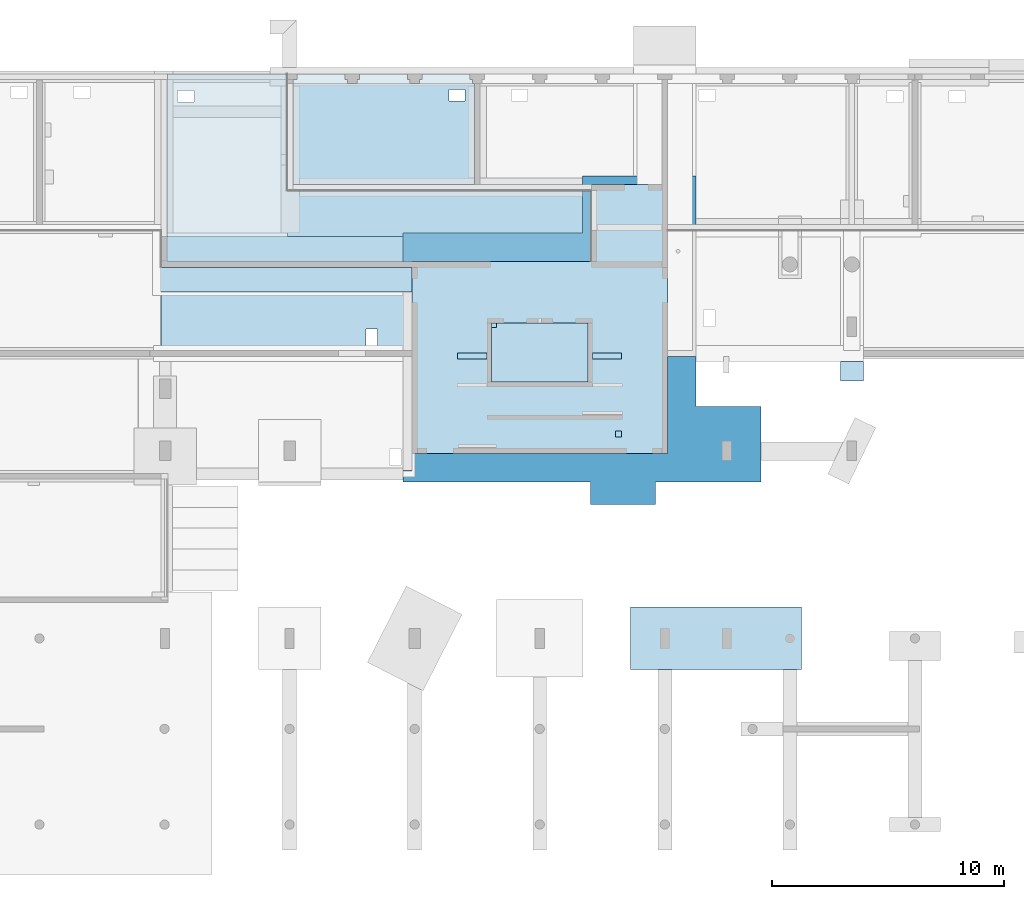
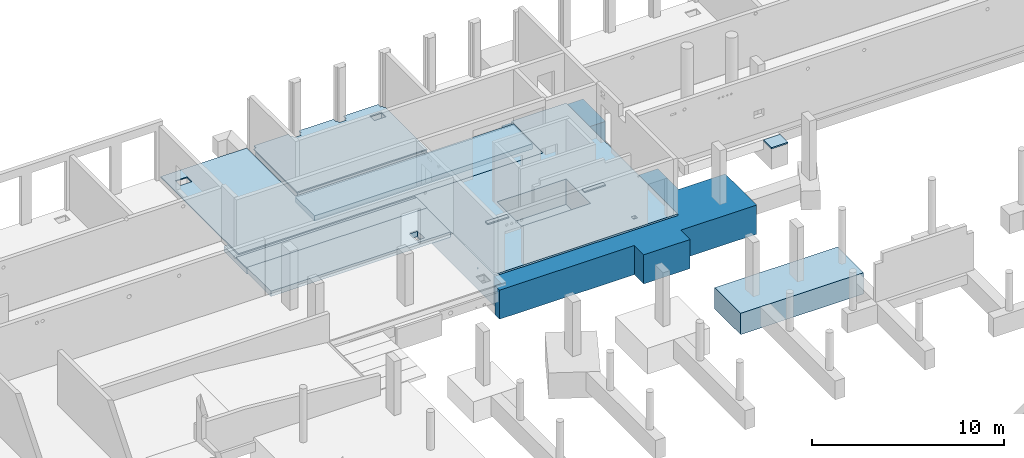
# One storey, part 25 of 60: 15 slabs, 44 openings.
"""IFC2X3 building model written with IfcOpenShell, lengths in millimetres."""

from ifc_helpers import new_model, entity, si_unit, converted_unit, derived_unit, direction, frame, frame_2d, origin, origin_2d_with_axis, place, context, subcontext, project, spatial, polyline, rectangle, circle, outline, extrude, material, layer, layer_set, layer_usage, element, save


model = new_model("IFC2X3")

# Units and contexts
model_context = context("Model", 3, precision=0.01, world=origin(), true_north=direction((6.12303176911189e-17, 1.0)))
body_context = subcontext(model_context, "Body", "Model", "MODEL_VIEW")
ifc_project = project(units=[si_unit("LENGTHUNIT", "METRE", prefix="MILLI"), si_unit("AREAUNIT", "SQUARE_METRE"), si_unit("VOLUMEUNIT", "CUBIC_METRE"), converted_unit("PLANEANGLEUNIT", "DEGREE", entity("IfcRatioMeasure", 0.0174532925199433), si_unit("PLANEANGLEUNIT", "RADIAN"), dimensions=[0, 0, 0, 0, 0, 0, 0]), si_unit("MASSUNIT", "GRAM", prefix="KILO"), derived_unit("MASSDENSITYUNIT", [(si_unit("MASSUNIT", "GRAM", prefix="KILO"), 1), (si_unit("LENGTHUNIT", "METRE"), -3)]), si_unit("TIMEUNIT", "SECOND"), si_unit("FREQUENCYUNIT", "HERTZ"), si_unit("THERMODYNAMICTEMPERATUREUNIT", "DEGREE_CELSIUS"), derived_unit("THERMALTRANSMITTANCEUNIT", [(si_unit("MASSUNIT", "GRAM", prefix="KILO"), 1), (si_unit("THERMODYNAMICTEMPERATUREUNIT", "KELVIN"), -1), (si_unit("TIMEUNIT", "SECOND"), -3)]), derived_unit("VOLUMETRICFLOWRATEUNIT", [(si_unit("LENGTHUNIT", "METRE"), 3), (si_unit("TIMEUNIT", "SECOND"), -1)]), si_unit("ELECTRICCURRENTUNIT", "AMPERE"), si_unit("ELECTRICVOLTAGEUNIT", "VOLT"), si_unit("POWERUNIT", "WATT"), si_unit("FORCEUNIT", "NEWTON", prefix="KILO"), si_unit("ILLUMINANCEUNIT", "LUX"), si_unit("LUMINOUSFLUXUNIT", "LUMEN"), si_unit("LUMINOUSINTENSITYUNIT", "CANDELA"), derived_unit("USERDEFINED", [(si_unit("MASSUNIT", "GRAM", prefix="KILO"), -1), (si_unit("LENGTHUNIT", "METRE"), -2), (si_unit("TIMEUNIT", "SECOND"), 3), (si_unit("LUMINOUSFLUXUNIT", "LUMEN"), 1)]), derived_unit("LINEARVELOCITYUNIT", [(si_unit("LENGTHUNIT", "METRE"), 1), (si_unit("TIMEUNIT", "SECOND"), -1)]), si_unit("PRESSUREUNIT", "PASCAL"), derived_unit("USERDEFINED", [(si_unit("LENGTHUNIT", "METRE"), -2), (si_unit("MASSUNIT", "GRAM", prefix="KILO"), 1), (si_unit("TIMEUNIT", "SECOND"), -2)])], contexts=[model_context])

# Site, building, storey
site_placement = place(None, origin())
site = spatial("IfcSite", under=ifc_project, at=site_placement, Name="Default", CompositionType="ELEMENT")
building_placement = place(site_placement, origin())
building = spatial("IfcBuilding", under=site, at=building_placement, Name="niet gebruiken", CompositionType="ELEMENT")
storey_placement = place(building_placement, origin())
storey = spatial("IfcBuildingStorey", under=building, at=storey_placement, Name="00 begane grond", CompositionType="ELEMENT", Elevation=0.0)

# Slab
ifc_material_1 = material(Name="NLRS_f2_beton ihwg")
slab_1_placement = place(storey_placement, origin())
element("IfcSlab", 1, at=slab_1_placement, inside=storey, material=ifc_material_1, Name="NLRS_16.13_SFO_LB_fundatiepoer_gen:2700x7380x1350", ObjectType="NLRS_16.13_SFO_LB_fundatiepoer_gen:2700x7380x1350", PredefinedType="BASESLAB", context=body_context, shape_type="SweptSolid", body=[
    extrude(rectangle(XDim=7380.0, YDim=2700.0, at=frame_2d((-4.32009983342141e-12, 0.0), x_axis=(1.0, 0.0))), frame((50810.0, 28881.0, -1550.0)), (0.0, 0.0, 1.0), 1350.0),
])

# Slab, opening
ifc_layer_1 = layer(ifc_material_1, 350.0)
ifc_layer_set_1 = layer_set([ifc_layer_1], Name="Floor:NLRS_23.21_FL_beton ihwg d=350_gen")
ifc_layer_usage_1 = layer_usage(ifc_layer_set_1, "AXIS3", "POSITIVE", 0.0)
slab_2_placement = place(storey_placement, frame((41124.9998491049, 39946.0, -2050.0)))
slab_2 = element("IfcSlab", 2, at=slab_2_placement, inside=storey, material=ifc_layer_usage_1, Name="Floor:NLRS_23.21_FL_beton ihwg d=350_gen", ObjectType="Floor:NLRS_23.21_FL_beton ihwg d=350_gen", PredefinedType="FLOOR", context=body_context, shape_type="SweptSolid", body=[
    extrude(rectangle(XDim=2549.99999999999, YDim=4149.99999999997, at=frame_2d((0.0, 0.0), x_axis=(0.0, -1.0))), frame((2075.0, 1275.0, 350.0), z_axis=(0.0, 0.0, -1.0), x_axis=(-1.0, 0.0, 0.0)), (0.0, 0.0, 1.0), 350.0),
])
opening_1_placement = place(slab_2_placement, origin())
element("IfcOpeningElement", 3, at=opening_1_placement, cuts=slab_2, ObjectType="Opening", context=body_context, shape_type="SweptSolid", body=[
    extrude(rectangle(XDim=199.999999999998, YDim=200.000000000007, at=origin_2d_with_axis()), frame((100.0, 2450.0, 325.0), z_axis=(0.0, 0.0, 1.0), x_axis=(-1.0, 0.0, 0.0)), (0.0, 0.0, 1.0), 25.0),
])

# Slab, openings
ifc_layer_2 = layer(ifc_material_1, 70.0)
ifc_layer_set_2 = layer_set([ifc_layer_2], Name="Floor:NLRS_23.21_FL_druklaag d=70_gen")
ifc_layer_usage_2 = layer_usage(ifc_layer_set_2, "AXIS3", "POSITIVE", 0.0)
slab_3_placement = place(storey_placement, frame((8180.0, 45156.0, -160.0)))
slab_3 = element("IfcSlab", 4, at=slab_3_placement, inside=storey, material=ifc_layer_usage_2, Name="Floor:NLRS_23.21_FL_druklaag d=70_gen:2", ObjectType="Floor:NLRS_23.21_FL_druklaag d=70_gen", PredefinedType="FLOOR", context=body_context, shape_type="SweptSolid", body=[
    extrude(outline(polyline([(36327.4999999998, -4050.0), (36327.4999999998, 3800.0), (36327.4999999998, 4050.0), (31147.5000000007, 4050.0), (31147.5000000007, -1000.0), (18022.500000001, -1000.0), (18022.500000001, -4050.0), (36327.4999999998, -4050.0)])), frame((55247.4999999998, 4050.0, 70.0), z_axis=(0.0, 0.0, -1.0), x_axis=(-1.0, 0.0, 0.0)), (0.0, 0.0, 1.0), 70.0),
])
placement_1 = place(storey_placement, frame((8180.0, 45156.0, -160.0)))
placement_2 = place(placement_1, origin())
element("IfcOpeningElement", 5, at=placement_2, cuts=slab_3, ObjectType="Opening", context=body_context, shape_type="SweptSolid", body=[
    extrude(rectangle(XDim=700.000000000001, YDim=499.999999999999, at=origin_2d_with_axis()), frame((1750.0, 7302.50000000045, -380.0), z_axis=(0.0, 0.0, 1.0), x_axis=(-1.0, 0.0, 0.0)), (0.0, 0.0, 1.0), 450.0),
])
placement_3 = place(placement_1, origin())
element("IfcOpeningElement", 6, at=placement_3, cuts=slab_3, ObjectType="Opening", context=body_context, shape_type="SweptSolid", body=[
    extrude(rectangle(XDim=700.000000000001, YDim=499.999999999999, at=origin_2d_with_axis()), frame((4450.0, 7302.50000000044, -380.0), z_axis=(0.0, 0.0, 1.0), x_axis=(-1.0, 0.0, 0.0)), (0.0, 0.0, 1.0), 450.0),
])
placement_4 = place(placement_1, origin())
element("IfcOpeningElement", 7, at=placement_4, cuts=slab_3, ObjectType="Opening", context=body_context, shape_type="SweptSolid", body=[
    extrude(rectangle(XDim=700.000000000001, YDim=499.999999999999, at=origin_2d_with_axis()), frame((12550.0, 7302.50000000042, -380.0), z_axis=(0.0, 0.0, 1.0), x_axis=(-1.0, 0.0, 0.0)), (0.0, 0.0, 1.0), 450.0),
])
placement_5 = place(placement_1, origin())
element("IfcOpeningElement", 8, at=placement_5, cuts=slab_3, ObjectType="Opening", context=body_context, shape_type="SweptSolid", body=[
    extrude(rectangle(XDim=700.000000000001, YDim=499.999999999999, at=origin_2d_with_axis()), frame((15250.0, 7302.50000000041, -380.0), z_axis=(0.0, 0.0, 1.0), x_axis=(-1.0, 0.0, 0.0)), (0.0, 0.0, 1.0), 450.0),
])
placement_6 = place(placement_1, origin())
element("IfcOpeningElement", 9, at=placement_6, cuts=slab_3, ObjectType="Opening", context=body_context, shape_type="SweptSolid", body=[
    extrude(rectangle(XDim=700.000000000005, YDim=499.999999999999, at=origin_2d_with_axis()), frame((42250.0, 7175.0, -380.0), z_axis=(0.0, 0.0, 1.0), x_axis=(-1.0, 0.0, 0.0)), (0.0, 0.0, 1.0), 450.0),
])
placement_7 = place(placement_1, origin())
element("IfcOpeningElement", 10, at=placement_7, cuts=slab_3, ObjectType="Opening", context=body_context, shape_type="SweptSolid", body=[
    extrude(rectangle(XDim=700.000000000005, YDim=499.999999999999, at=origin_2d_with_axis()), frame((50350.0, 7102.50000000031, -380.0), z_axis=(0.0, 0.0, 1.0), x_axis=(-1.0, 0.0, 0.0)), (0.0, 0.0, 1.0), 450.0),
])
placement_8 = place(placement_1, origin())
element("IfcOpeningElement", 11, at=placement_8, cuts=slab_3, ObjectType="Opening", context=body_context, shape_type="SweptSolid", body=[
    extrude(rectangle(XDim=699.999999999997, YDim=499.999999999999, at=origin_2d_with_axis()), frame((53050.0, 7102.50000000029, -380.0), z_axis=(0.0, 0.0, 1.0), x_axis=(-1.0, 0.0, 0.0)), (0.0, 0.0, 1.0), 450.0),
])
placement_9 = place(placement_1, origin())
element("IfcOpeningElement", 12, at=placement_9, cuts=slab_3, ObjectType="Opening", context=body_context, shape_type="SweptSolid", body=[
    extrude(rectangle(XDim=699.999999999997, YDim=499.999999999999, at=origin_2d_with_axis()), frame((60190.0, 7302.50000000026, -380.0), z_axis=(0.0, 0.0, 1.0), x_axis=(-1.0, 0.0, 0.0)), (0.0, 0.0, 1.0), 450.0),
])
placement_10 = place(placement_1, origin())
element("IfcOpeningElement", 13, at=placement_10, cuts=slab_3, ObjectType="Opening", context=body_context, shape_type="SweptSolid", body=[
    extrude(rectangle(XDim=700.000000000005, YDim=499.999999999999, at=origin_2d_with_axis()), frame((63850.0, 7302.50000000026, -380.0), z_axis=(0.0, 0.0, 1.0), x_axis=(-1.0, 0.0, 0.0)), (0.0, 0.0, 1.0), 450.0),
])
placement_11 = place(placement_1, origin())
element("IfcOpeningElement", 14, at=placement_11, cuts=slab_3, ObjectType="Opening", context=body_context, shape_type="SweptSolid", body=[
    extrude(rectangle(XDim=699.999999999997, YDim=499.999999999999, at=origin_2d_with_axis()), frame((90850.0, 7155.0, -380.0), z_axis=(0.0, 0.0, 1.0), x_axis=(-1.0, 0.0, 0.0)), (0.0, 0.0, 1.0), 450.0),
])
placement_12 = place(placement_1, origin())
element("IfcOpeningElement", 15, at=placement_12, cuts=slab_3, ObjectType="Opening", context=body_context, shape_type="SweptSolid", body=[
    extrude(rectangle(XDim=699.999999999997, YDim=499.999999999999, at=origin_2d_with_axis()), frame((97990.0, 7155.0, -380.0), z_axis=(0.0, 0.0, 1.0), x_axis=(-1.0, 0.0, 0.0)), (0.0, 0.0, 1.0), 450.0),
])
placement_13 = place(placement_1, origin())
element("IfcOpeningElement", 16, at=placement_13, cuts=slab_3, ObjectType="Opening", context=body_context, shape_type="SweptSolid", body=[
    extrude(rectangle(XDim=699.999999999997, YDim=499.999999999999, at=origin_2d_with_axis()), frame((101650.0, 7302.50000000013, -380.0), z_axis=(0.0, 0.0, 1.0), x_axis=(-1.0, 0.0, 0.0)), (0.0, 0.0, 1.0), 450.0),
])
placement_14 = place(placement_1, origin())
element("IfcOpeningElement", 17, at=placement_14, cuts=slab_3, ObjectType="Opening", context=body_context, shape_type="SweptSolid", body=[
    extrude(rectangle(XDim=699.999999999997, YDim=499.999999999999, at=origin_2d_with_axis()), frame((109750.0, 7302.50000000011, -380.0), z_axis=(0.0, 0.0, 1.0), x_axis=(-1.0, 0.0, 0.0)), (0.0, 0.0, 1.0), 450.0),
])
placement_15 = place(placement_1, origin())
element("IfcOpeningElement", 18, at=placement_15, cuts=slab_3, ObjectType="Opening", context=body_context, shape_type="SweptSolid", body=[
    extrude(rectangle(XDim=699.999999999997, YDim=499.999999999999, at=origin_2d_with_axis()), frame((112450.0, 7302.5000000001, -380.0), z_axis=(0.0, 0.0, 1.0), x_axis=(-1.0, 0.0, 0.0)), (0.0, 0.0, 1.0), 450.0),
])
placement_16 = place(placement_1, origin())
element("IfcOpeningElement", 19, at=placement_16, cuts=slab_3, ObjectType="Opening", context=body_context, shape_type="SweptSolid", body=[
    extrude(rectangle(XDim=700.000000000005, YDim=499.999999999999, at=origin_2d_with_axis()), frame((31450.0, 7175.0, -380.0), z_axis=(0.0, 0.0, 1.0), x_axis=(-1.0, 0.0, 0.0)), (0.0, 0.0, 1.0), 450.0),
])
placement_17 = place(placement_1, origin())
element("IfcOpeningElement", 20, at=placement_17, cuts=slab_3, ObjectType="Opening", context=body_context, shape_type="SweptSolid", body=[
    extrude(rectangle(XDim=700.000000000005, YDim=499.999999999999, at=origin_2d_with_axis()), frame((34150.0, 7175.0, -380.0), z_axis=(0.0, 0.0, 1.0), x_axis=(-1.0, 0.0, 0.0)), (0.0, 0.0, 1.0), 450.0),
])
placement_18 = place(placement_1, origin())
element("IfcOpeningElement", 21, at=placement_18, cuts=slab_3, ObjectType="Opening", context=body_context, shape_type="SweptSolid", body=[
    extrude(rectangle(XDim=699.999999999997, YDim=499.999999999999, at=origin_2d_with_axis()), frame((82750.0, 7175.0, -380.0), z_axis=(0.0, 0.0, 1.0), x_axis=(-1.0, 0.0, 0.0)), (0.0, 0.0, 1.0), 450.0),
])
placement_19 = place(placement_1, origin())
element("IfcOpeningElement", 22, at=placement_19, cuts=slab_3, ObjectType="Opening", context=body_context, shape_type="SweptSolid", body=[
    extrude(rectangle(XDim=699.999999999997, YDim=499.999999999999, at=origin_2d_with_axis()), frame((80050.0, 7175.0, -380.0), z_axis=(0.0, 0.0, 1.0), x_axis=(-1.0, 0.0, 0.0)), (0.0, 0.0, 1.0), 450.0),
])
placement_20 = place(placement_1, origin())
element("IfcOpeningElement", 23, at=placement_20, cuts=slab_3, ObjectType="Opening", context=body_context, shape_type="SweptSolid", body=[
    extrude(rectangle(XDim=700.000000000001, YDim=499.999999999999, at=origin_2d_with_axis()), frame((19739.8230847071, 7129.78918001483, -380.0), z_axis=(0.0, 0.0, 1.0), x_axis=(-1.0, 0.0, 0.0)), (0.0, 0.0, 1.0), 450.0),
])

slab_4_placement = place(storey_placement, frame((8180.0, 45156.0, -160.0)))
slab_4 = element("IfcSlab", 24, at=slab_4_placement, inside=storey, material=ifc_layer_usage_2, Name="Floor:NLRS_23.21_FL_druklaag d=70_gen:3", ObjectType="Floor:NLRS_23.21_FL_druklaag d=70_gen", PredefinedType="FLOOR", context=body_context, shape_type="SweptSolid", body=[
    extrude(outline(polyline([(28637.500000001, 4050.0), (28637.500000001, 3800.0), (28532.500000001, 3800.0), (28532.500000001, 3638.0), (28122.500000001, 3638.0), (28122.500000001, 3800.0), (28017.500000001, 3800.0), (28017.500000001, 4050.0), (25937.500000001, 4050.0), (25937.500000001, 3800.0), (25832.500000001, 3800.0), (25832.500000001, 3640.0), (25422.500000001, 3640.0), (25422.500000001, 3800.0), (25317.500000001, 3800.0), (25317.500000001, 4050.0), (23237.500000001, 4050.0), (23237.500000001, 3800.0), (23132.500000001, 3800.0), (23132.500000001, 3640.0), (23052.4999999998, 3640.0), (23052.4999999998, -730.0), (30877.4999999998, -730.0), (30877.4999999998, 3800.0), (30717.4999999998, 3800.0), (30717.4999999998, 4050.0), (28637.500000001, 4050.0)])), frame((55247.4999999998, 4050.0, 70.0), z_axis=(0.0, 0.0, -1.0), x_axis=(-1.0, 0.0, 0.0)), (0.0, 0.0, 1.0), 70.0),
])
element("IfcOpeningElement", 25, at=placement_2, cuts=slab_4, ObjectType="Opening", context=body_context, shape_type="SweptSolid", body=[
    extrude(rectangle(XDim=700.000000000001, YDim=499.999999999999, at=origin_2d_with_axis()), frame((1750.0, 7302.50000000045, -380.0), z_axis=(0.0, 0.0, 1.0), x_axis=(-1.0, 0.0, 0.0)), (0.0, 0.0, 1.0), 450.0),
])
element("IfcOpeningElement", 26, at=placement_3, cuts=slab_4, ObjectType="Opening", context=body_context, shape_type="SweptSolid", body=[
    extrude(rectangle(XDim=700.000000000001, YDim=499.999999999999, at=origin_2d_with_axis()), frame((4450.0, 7302.50000000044, -380.0), z_axis=(0.0, 0.0, 1.0), x_axis=(-1.0, 0.0, 0.0)), (0.0, 0.0, 1.0), 450.0),
])
element("IfcOpeningElement", 27, at=placement_4, cuts=slab_4, ObjectType="Opening", context=body_context, shape_type="SweptSolid", body=[
    extrude(rectangle(XDim=700.000000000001, YDim=499.999999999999, at=origin_2d_with_axis()), frame((12550.0, 7302.50000000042, -380.0), z_axis=(0.0, 0.0, 1.0), x_axis=(-1.0, 0.0, 0.0)), (0.0, 0.0, 1.0), 450.0),
])
element("IfcOpeningElement", 28, at=placement_5, cuts=slab_4, ObjectType="Opening", context=body_context, shape_type="SweptSolid", body=[
    extrude(rectangle(XDim=700.000000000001, YDim=499.999999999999, at=origin_2d_with_axis()), frame((15250.0, 7302.50000000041, -380.0), z_axis=(0.0, 0.0, 1.0), x_axis=(-1.0, 0.0, 0.0)), (0.0, 0.0, 1.0), 450.0),
])
element("IfcOpeningElement", 29, at=placement_6, cuts=slab_4, ObjectType="Opening", context=body_context, shape_type="SweptSolid", body=[
    extrude(rectangle(XDim=700.000000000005, YDim=499.999999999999, at=origin_2d_with_axis()), frame((42250.0, 7175.0, -380.0), z_axis=(0.0, 0.0, 1.0), x_axis=(-1.0, 0.0, 0.0)), (0.0, 0.0, 1.0), 450.0),
])
element("IfcOpeningElement", 30, at=placement_7, cuts=slab_4, ObjectType="Opening", context=body_context, shape_type="SweptSolid", body=[
    extrude(rectangle(XDim=700.000000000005, YDim=499.999999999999, at=origin_2d_with_axis()), frame((50350.0, 7102.50000000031, -380.0), z_axis=(0.0, 0.0, 1.0), x_axis=(-1.0, 0.0, 0.0)), (0.0, 0.0, 1.0), 450.0),
])
element("IfcOpeningElement", 31, at=placement_8, cuts=slab_4, ObjectType="Opening", context=body_context, shape_type="SweptSolid", body=[
    extrude(rectangle(XDim=699.999999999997, YDim=499.999999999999, at=origin_2d_with_axis()), frame((53050.0, 7102.50000000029, -380.0), z_axis=(0.0, 0.0, 1.0), x_axis=(-1.0, 0.0, 0.0)), (0.0, 0.0, 1.0), 450.0),
])
element("IfcOpeningElement", 32, at=placement_9, cuts=slab_4, ObjectType="Opening", context=body_context, shape_type="SweptSolid", body=[
    extrude(rectangle(XDim=699.999999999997, YDim=499.999999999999, at=origin_2d_with_axis()), frame((60190.0, 7302.50000000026, -380.0), z_axis=(0.0, 0.0, 1.0), x_axis=(-1.0, 0.0, 0.0)), (0.0, 0.0, 1.0), 450.0),
])
element("IfcOpeningElement", 33, at=placement_10, cuts=slab_4, ObjectType="Opening", context=body_context, shape_type="SweptSolid", body=[
    extrude(rectangle(XDim=700.000000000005, YDim=499.999999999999, at=origin_2d_with_axis()), frame((63850.0, 7302.50000000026, -380.0), z_axis=(0.0, 0.0, 1.0), x_axis=(-1.0, 0.0, 0.0)), (0.0, 0.0, 1.0), 450.0),
])
element("IfcOpeningElement", 34, at=placement_11, cuts=slab_4, ObjectType="Opening", context=body_context, shape_type="SweptSolid", body=[
    extrude(rectangle(XDim=699.999999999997, YDim=499.999999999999, at=origin_2d_with_axis()), frame((90850.0, 7155.0, -380.0), z_axis=(0.0, 0.0, 1.0), x_axis=(-1.0, 0.0, 0.0)), (0.0, 0.0, 1.0), 450.0),
])
element("IfcOpeningElement", 35, at=placement_12, cuts=slab_4, ObjectType="Opening", context=body_context, shape_type="SweptSolid", body=[
    extrude(rectangle(XDim=699.999999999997, YDim=499.999999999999, at=origin_2d_with_axis()), frame((97990.0, 7155.0, -380.0), z_axis=(0.0, 0.0, 1.0), x_axis=(-1.0, 0.0, 0.0)), (0.0, 0.0, 1.0), 450.0),
])
element("IfcOpeningElement", 36, at=placement_13, cuts=slab_4, ObjectType="Opening", context=body_context, shape_type="SweptSolid", body=[
    extrude(rectangle(XDim=699.999999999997, YDim=499.999999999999, at=origin_2d_with_axis()), frame((101650.0, 7302.50000000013, -380.0), z_axis=(0.0, 0.0, 1.0), x_axis=(-1.0, 0.0, 0.0)), (0.0, 0.0, 1.0), 450.0),
])
element("IfcOpeningElement", 37, at=placement_14, cuts=slab_4, ObjectType="Opening", context=body_context, shape_type="SweptSolid", body=[
    extrude(rectangle(XDim=699.999999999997, YDim=499.999999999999, at=origin_2d_with_axis()), frame((109750.0, 7302.50000000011, -380.0), z_axis=(0.0, 0.0, 1.0), x_axis=(-1.0, 0.0, 0.0)), (0.0, 0.0, 1.0), 450.0),
])
element("IfcOpeningElement", 38, at=placement_15, cuts=slab_4, ObjectType="Opening", context=body_context, shape_type="SweptSolid", body=[
    extrude(rectangle(XDim=699.999999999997, YDim=499.999999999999, at=origin_2d_with_axis()), frame((112450.0, 7302.5000000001, -380.0), z_axis=(0.0, 0.0, 1.0), x_axis=(-1.0, 0.0, 0.0)), (0.0, 0.0, 1.0), 450.0),
])
element("IfcOpeningElement", 39, at=placement_16, cuts=slab_4, ObjectType="Opening", context=body_context, shape_type="SweptSolid", body=[
    extrude(rectangle(XDim=700.000000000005, YDim=499.999999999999, at=origin_2d_with_axis()), frame((31450.0, 7175.0, -380.0), z_axis=(0.0, 0.0, 1.0), x_axis=(-1.0, 0.0, 0.0)), (0.0, 0.0, 1.0), 450.0),
])
element("IfcOpeningElement", 40, at=placement_17, cuts=slab_4, ObjectType="Opening", context=body_context, shape_type="SweptSolid", body=[
    extrude(rectangle(XDim=700.000000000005, YDim=499.999999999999, at=origin_2d_with_axis()), frame((34150.0, 7175.0, -380.0), z_axis=(0.0, 0.0, 1.0), x_axis=(-1.0, 0.0, 0.0)), (0.0, 0.0, 1.0), 450.0),
])
element("IfcOpeningElement", 41, at=placement_18, cuts=slab_4, ObjectType="Opening", context=body_context, shape_type="SweptSolid", body=[
    extrude(rectangle(XDim=699.999999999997, YDim=499.999999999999, at=origin_2d_with_axis()), frame((82750.0, 7175.0, -380.0), z_axis=(0.0, 0.0, 1.0), x_axis=(-1.0, 0.0, 0.0)), (0.0, 0.0, 1.0), 450.0),
])
element("IfcOpeningElement", 42, at=placement_19, cuts=slab_4, ObjectType="Opening", context=body_context, shape_type="SweptSolid", body=[
    extrude(rectangle(XDim=699.999999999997, YDim=499.999999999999, at=origin_2d_with_axis()), frame((80050.0, 7175.0, -380.0), z_axis=(0.0, 0.0, 1.0), x_axis=(-1.0, 0.0, 0.0)), (0.0, 0.0, 1.0), 450.0),
])
element("IfcOpeningElement", 43, at=placement_20, cuts=slab_4, ObjectType="Opening", context=body_context, shape_type="SweptSolid", body=[
    extrude(rectangle(XDim=700.000000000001, YDim=499.999999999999, at=origin_2d_with_axis()), frame((19739.8230847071, 7129.78918001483, -380.0), z_axis=(0.0, 0.0, 1.0), x_axis=(-1.0, 0.0, 0.0)), (0.0, 0.0, 1.0), 450.0),
])

# Slab, opening
ifc_material_2 = material(Name="NLRS_f2_beton prefab")
ifc_layer_3 = layer(ifc_material_2, 200.0)
ifc_material_3 = material(Name="NLRS_n7_isolatie EPS")
ifc_layer_4 = layer(ifc_material_3, 132.0)
ifc_layer_set_3 = layer_set([ifc_layer_3, ifc_layer_4], Name="Floor:NLRS_23.21_FL_geisoleerde kanaalplaat d=200 rc 3.5 iso132_gen")
ifc_layer_usage_3 = layer_usage(ifc_layer_set_3, "AXIS3", "POSITIVE", 0.0)
slab_5_placement = place(storey_placement, frame((32570.0, 48496.0, -492.0)))
slab_5 = element("IfcSlab", 44, at=slab_5_placement, inside=storey, material=ifc_layer_usage_3, Name="Floor:NLRS_23.21_FL_geisoleerde kanaalplaat d=200 rc 3.5 iso132_gen", ObjectType="Floor:NLRS_23.21_FL_geisoleerde kanaalplaat d=200 rc 3.5 iso132_gen", PredefinedType="FLOOR", context=body_context, shape_type="SweptSolid", body=[
    extrude(rectangle(XDim=4329.99999999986, YDim=7785.00000000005, at=frame_2d((0.0, 0.0), x_axis=(0.0, -1.0))), frame((3892.50000000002, 2165.0, 332.0), z_axis=(0.0, 0.0, -1.0), x_axis=(-1.0, 0.0, 0.0)), (0.0, 0.0, 1.0), 332.0),
])
opening_40_placement = place(slab_5_placement, origin())
element("IfcOpeningElement", 45, at=opening_40_placement, cuts=slab_5, ObjectType="Opening", context=body_context, shape_type="SweptSolid", body=[
    extrude(rectangle(XDim=700.000000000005, YDim=499.999999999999, at=origin_2d_with_axis()), frame((7060.0, 3835.0, -48.0), z_axis=(0.0, 0.0, 1.0), x_axis=(-1.0, 0.0, 0.0)), (0.0, 0.0, 1.0), 450.0),
])

ifc_layer_usage_4 = layer_usage(ifc_layer_set_3, "AXIS3", "POSITIVE", 0.0)
slab_6_placement = place(storey_placement, frame((26850.0, 41331.0, -402.0)))
slab_6 = element("IfcSlab", 46, at=slab_6_placement, inside=storey, material=ifc_layer_usage_4, Name="Floor:NLRS_23.21_FL_geisoleerde kanaalplaat d=200 rc 3.5 iso132_gen", ObjectType="Floor:NLRS_23.21_FL_geisoleerde kanaalplaat d=200 rc 3.5 iso132_gen", PredefinedType="FLOOR", context=body_context, shape_type="SweptSolid", body=[
    extrude(rectangle(XDim=10804.9999999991, YDim=2500.0, at=frame_2d((0.0, 0.0), x_axis=(-1.0, 0.0))), frame((5402.49999999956, 1250.0, 332.0), z_axis=(0.0, 0.0, -1.0), x_axis=(-1.0, 0.0, 0.0)), (0.0, 0.0, 1.0), 332.0),
])
opening_41_placement = place(slab_6_placement, origin())
element("IfcOpeningElement", 47, at=opening_41_placement, cuts=slab_6, ObjectType="Opening", context=body_context, shape_type="SweptSolid", body=[
    extrude(rectangle(XDim=700.000000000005, YDim=500.000000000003, at=origin_2d_with_axis()), frame((9094.99093138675, 555.0, -48.0), z_axis=(0.0, 0.0, 1.0), x_axis=(0.0, -1.0, 0.0)), (0.0, 0.0, 1.0), 450.0),
])

# Slab
ifc_layer_5 = layer(ifc_material_1, 1850.0)
ifc_layer_set_4 = layer_set([ifc_layer_5], Name="Floor:NLRS_13.22_FL_beton ihwg d=1850_gen")
ifc_layer_usage_5 = layer_usage(ifc_layer_set_4, "AXIS3", "POSITIVE", 0.0)
slab_7_placement = place(storey_placement, origin())
element("IfcSlab", 48, at=slab_7_placement, inside=storey, material=ifc_layer_usage_5, Name="Floor:NLRS_13.22_FL_beton ihwg d=1850_gen", ObjectType="Floor:NLRS_13.22_FL_beton ihwg d=1850_gen", PredefinedType="BASESLAB", context=body_context, shape_type="SweptSolid", body=[
    extrude(outline(polyline([(-1348.57142857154, -8415.71428571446), (-853.57142857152, -8415.71428571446), (-853.571428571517, -8040.71428571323), (-123.571428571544, -8040.71428571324), (-123.571428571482, 3009.28571428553), (4081.42857142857, 3009.2857142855), (4081.42857142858, 4234.28571428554), (1916.42857142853, 4234.28571428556), (1916.42857142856, 7044.28571428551), (-1348.57142857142, 7044.28571428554), (-1348.57142857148, 2484.28571428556), (-2323.57142857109, 2484.28571428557), (-2323.57142857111, -315.714285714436), (-1348.57142857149, -315.714285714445), (-1348.57142857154, -8415.71428571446)])), frame((45715.7142857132, 36979.5714285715, -200.0), z_axis=(0.0, 0.0, -1.0), x_axis=(0.0, 1.0, 0.0)), (0.0, 0.0, 1.0), 1850.0),
])

# Slab, openings
ifc_layer_6 = layer(ifc_material_1, 1960.0)
ifc_layer_set_5 = layer_set([ifc_layer_6], Name="Floor:NLRS_13.22_FL_beton ihwg d=1960_gen")
ifc_layer_usage_6 = layer_usage(ifc_layer_set_5, "AXIS3", "POSITIVE", 0.0)
slab_8_placement = place(storey_placement, frame((37675.0, 36856.0, -2050.0)))
slab_8 = element("IfcSlab", 49, at=slab_8_placement, inside=storey, material=ifc_layer_usage_6, Name="Floor:NLRS_13.22_FL_beton ihwg d=1960_gen", ObjectType="Floor:NLRS_13.22_FL_beton ihwg d=1960_gen", PredefinedType="BASESLAB", context=body_context, shape_type="SweptSolid", body=[
    extrude(outline(polyline([(5525.0, -5810.0), (5525.0, 2490.0), (-2225.0, 2490.0), (-2225.0, 5810.0), (-5525.0, 5810.0), (-5525.0, -5810.0), (5525.0, -5810.0)])), frame((5525.0, 5810.0, 1960.0), z_axis=(0.0, 0.0, -1.0), x_axis=(-1.0, 0.0, 0.0)), (0.0, 0.0, 1.0), 1960.0),
])
opening_42_placement = place(slab_8_placement, origin())
element("IfcOpeningElement", 50, at=opening_42_placement, cuts=slab_8, ObjectType="Opening", context=body_context, shape_type="SweptSolid", body=[
    extrude(rectangle(XDim=250.000000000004, YDim=250.000000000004, at=origin_2d_with_axis()), frame((8924.98002152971, 850.400893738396, 1800.0), z_axis=(0.0, 0.0, 1.0), x_axis=(-1.0, 0.0, 0.0)), (0.0, 0.0, 1.0), 250.0),
])
opening_43_placement = place(slab_8_placement, origin())
element("IfcOpeningElement", 51, at=opening_43_placement, cuts=slab_8, ObjectType="Opening", context=body_context, shape_type="SweptSolid", body=[
    extrude(circle(Radius=37.5, at=origin_2d_with_axis()), frame((-375.0, 1698.40089373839, 1350.0), z_axis=(1.0, -5.0672762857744e-06, 0.0), x_axis=(5.0672762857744e-06, 1.0, 0.0)), (0.0, 0.0, 1.0), 499.999999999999),
])
opening_44_placement = place(slab_8_placement, frame((5524.99984910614, 4365.0, 1960.0)))
element("IfcOpeningElement", 52, at=opening_44_placement, cuts=slab_8, Name="Floor:NLRS_13.22_FL_beton ihwg d=1960_gen:2", ObjectType="Opening", context=body_context, shape_type="SweptSolid", body=[
    extrude(rectangle(XDim=2549.99999999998, YDim=4149.99999999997, at=origin_2d_with_axis()), frame((0.0, 0.0, 0.0), z_axis=(0.0, 0.0, -1.0), x_axis=(0.0, -1.0, 0.0)), (0.0, 0.0, 1.0), 1960.0),
])

# Slabs
ifc_layer_usage_7 = layer_usage(ifc_layer_set_3, "AXIS3", "POSITIVE", 0.0)
slab_9_placement = place(storey_placement, origin())
element("IfcSlab", 53, at=slab_9_placement, inside=storey, material=ifc_layer_usage_7, Name="Floor:NLRS_23.21_FL_geisoleerde kanaalplaat d=200 rc 3.5 iso132_gen", ObjectType="Floor:NLRS_23.21_FL_geisoleerde kanaalplaat d=200 rc 3.5 iso132_gen", PredefinedType="FLOOR", context=body_context, shape_type="SweptSolid", body=[
    extrude(rectangle(XDim=1975.00000000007, YDim=13104.9999999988, at=frame_2d((-1.29602995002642e-11, 0.0), x_axis=(1.0, 0.0))), frame((38852.4999999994, 47218.5, -160.0), z_axis=(0.0, 0.0, -1.0), x_axis=(0.0, 1.0, 0.0)), (0.0, 0.0, 1.0), 332.0),
])
ifc_layer_7 = layer(ifc_material_1, 1558.0)
ifc_layer_set_6 = layer_set([ifc_layer_7], Name="Floor:NLRS_13.22_FL_beton ihwg d=1558")
ifc_layer_usage_8 = layer_usage(ifc_layer_set_6, "AXIS3", "POSITIVE", 0.0)
slab_10_placement = place(storey_placement, origin())
element("IfcSlab", 54, at=slab_10_placement, inside=storey, material=ifc_layer_usage_8, Name="Floor:NLRS_13.22_FL_beton ihwg d=1558", ObjectType="Floor:NLRS_13.22_FL_beton ihwg d=1558", PredefinedType="BASESLAB", context=body_context, shape_type="SweptSolid", body=[
    extrude(outline(polyline([(-2700.83333333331, -6720.83333333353), (-150.833333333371, -6720.83333333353), (-150.833333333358, 1029.16666666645), (2319.16666666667, 1029.16666666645), (2319.16666666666, 5929.16666666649), (-35.8333333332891, 5929.1666666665), (-35.8333333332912, 4704.16666666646), (1944.16666666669, 4704.16666666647), (1944.16666666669, 1404.16666666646), (-1375.83333333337, 1404.16666666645), (-1375.83333333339, -6345.83333333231), (-2700.83333333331, -6345.83333333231), (-2700.83333333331, -6720.83333333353)])), frame((44020.8333333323, 46531.8333333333, -492.0), z_axis=(0.0, 0.0, -1.0), x_axis=(0.0, 1.0, 0.0)), (0.0, 0.0, 1.0), 1558.0),
])
ifc_layer_8 = layer(ifc_material_1, 332.0)
ifc_layer_set_7 = layer_set([ifc_layer_8], Name="Floor:NLRS_13.22_FL_beton ihwg d=332_gen")
ifc_layer_usage_9 = layer_usage(ifc_layer_set_7, "AXIS3", "POSITIVE", 0.0)
slab_11_placement = place(storey_placement, origin())
element("IfcSlab", 55, at=slab_11_placement, inside=storey, material=ifc_layer_usage_9, Name="Floor:NLRS_13.22_FL_beton ihwg d=332_gen", ObjectType="Floor:NLRS_13.22_FL_beton ihwg d=332_gen", PredefinedType="FLOOR", context=body_context, shape_type="SweptSolid", body=[
    extrude(outline(polyline([(-1241.66666666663, -9800.0), (1158.33333333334, -9800.0), (1158.33333333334, 8775.0), (83.3333333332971, 8775.0), (83.3333333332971, 1025.0), (-1241.66666666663, 1025.0), (-1241.66666666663, -9800.0)])), frame((36650.0, 45072.6666666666, -160.0), z_axis=(0.0, 0.0, -1.0), x_axis=(0.0, 1.0, 0.0)), (0.0, 0.0, 1.0), 332.0),
])
ifc_layer_9 = layer(ifc_material_1, 90.0)
ifc_layer_set_8 = layer_set([ifc_layer_9], Name="Floor:NLRS_23.21_FL_beton ihwg d=90_gen")
ifc_layer_usage_10 = layer_usage(ifc_layer_set_8, "AXIS3", "POSITIVE", 0.0)
slab_12_placement = place(storey_placement, origin())
element("IfcSlab", 56, at=slab_12_placement, inside=storey, material=ifc_layer_usage_10, Name="Floor:NLRS_23.21_FL_beton ihwg d=90_gen", ObjectType="Floor:NLRS_23.21_FL_beton ihwg d=90_gen", PredefinedType="FLOOR", context=body_context, shape_type="SweptSolid", body=[
    extrude(rectangle(XDim=1074.99999999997, YDim=10844.9999999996, at=frame_2d((-4.32009983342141e-12, 0.0), x_axis=(1.0, 0.0))), frame((32252.4999999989, 44368.5, -70.0), z_axis=(0.0, 0.0, -1.0), x_axis=(0.0, 1.0, 0.0)), (0.0, 0.0, 1.0), 90.0),
])
ifc_layer_usage_11 = layer_usage(ifc_layer_set_8, "AXIS3", "POSITIVE", 0.0)
slab_13_placement = place(storey_placement, frame((49950.0, 40004.0, -492.0)))
element("IfcSlab", 57, at=slab_13_placement, inside=storey, material=ifc_layer_usage_11, Name="Floor:NLRS_23.21_FL_beton ihwg d=90_gen:3", ObjectType="Floor:NLRS_23.21_FL_beton ihwg d=90_gen", PredefinedType="FLOOR", context=body_context, shape_type="SweptSolid", body=[
    extrude(rectangle(XDim=831.999999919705, YDim=1000.00000000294, at=frame_2d((6025.0, -2830.0), x_axis=(0.0, -1.0))), frame((12750.0, 3246.0, 90.0), z_axis=(0.0, 0.0, -1.0), x_axis=(-1.0, 0.0, 0.0)), (0.0, 0.0, 1.0), 90.0),
])
ifc_layer_10 = layer(ifc_material_1, 70.0)
ifc_layer_set_9 = layer_set([ifc_layer_10], Name="Floor:NLRS_23.21_FL_beton ihwg d=70_gen")
ifc_layer_usage_12 = layer_usage(ifc_layer_set_9, "AXIS3", "POSITIVE", 0.0)
slab_14_placement = place(storey_placement, origin())
element("IfcSlab", 58, at=slab_14_placement, inside=storey, material=ifc_layer_usage_12, Name="Floor:NLRS_23.21_FL_beton ihwg d=70_gen", ObjectType="Floor:NLRS_23.21_FL_beton ihwg d=70_gen", PredefinedType="FLOOR", context=body_context, shape_type="SweptSolid", body=[
    extrude(rectangle(XDim=250.000000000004, YDim=1265.00000000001, at=frame_2d((-4.33431068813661e-12, 0.0), x_axis=(1.0, 0.0))), frame((40292.4998491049, 41071.0, -20.0), z_axis=(0.0, 0.0, -1.0), x_axis=(0.0, 1.0, 0.0)), (0.0, 0.0, 1.0), 70.0),
])
ifc_layer_usage_13 = layer_usage(ifc_layer_set_9, "AXIS3", "POSITIVE", 0.0)
slab_15_placement = place(storey_placement, origin())
element("IfcSlab", 59, at=slab_15_placement, inside=storey, material=ifc_layer_usage_13, Name="Floor:NLRS_23.21_FL_beton ihwg d=70_gen", ObjectType="Floor:NLRS_23.21_FL_beton ihwg d=70_gen", PredefinedType="FLOOR", context=body_context, shape_type="SweptSolid", body=[
    extrude(rectangle(XDim=250.000000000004, YDim=1265.00000000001, at=frame_2d((-4.33431068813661e-12, 0.0), x_axis=(1.0, 0.0))), frame((46107.5001508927, 41071.0, -20.0), z_axis=(0.0, 0.0, -1.0), x_axis=(0.0, 1.0, 0.0)), (0.0, 0.0, 1.0), 70.0),
])

save(model, "model.ifc")
